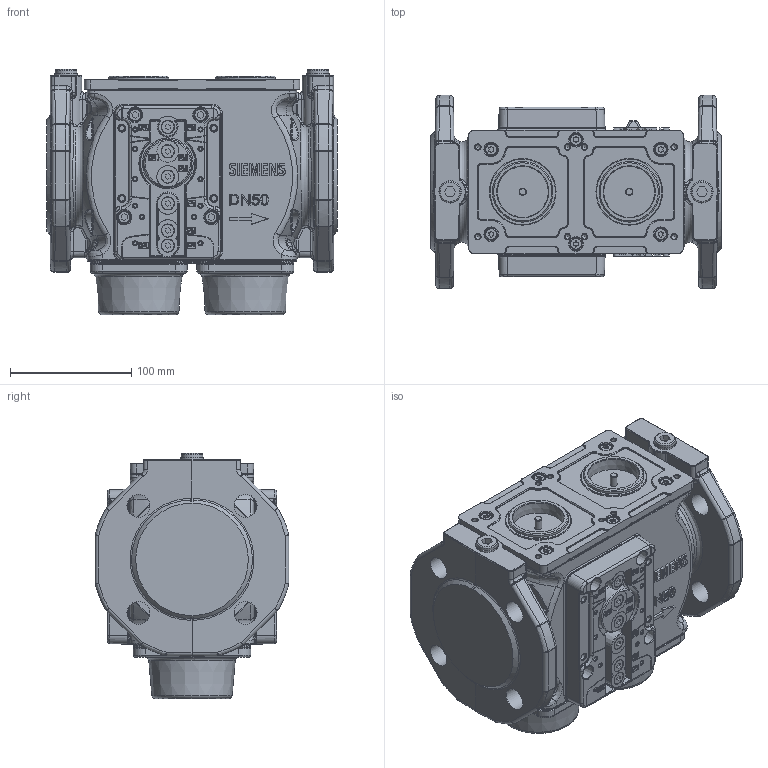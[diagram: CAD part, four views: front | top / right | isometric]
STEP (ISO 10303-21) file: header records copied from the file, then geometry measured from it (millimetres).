
FILE_DESCRIPTION(/* description */ (''),/* implementation_level */ '2;1');
FILE_NAME(/* name */ 'A5W00027771_02.stp',/* time_stamp */ '2018-07-02T07:58:23+02:00',/* author */ (''),/* organization */ (''),/* preprocessor_version */ 'ST-DEVELOPER v16',/* originating_system */ 'SIEMENS PLM Software NX 10.0',/* authorisation */ '');
FILE_SCHEMA (('AUTOMOTIVE_DESIGN { 1 0 10303 214 3 1 1 1 }'));
Products named in the file (1): Gant1984025585p1
Bounding box: 240 x 160 x 202.5 mm (x, y, z)
Volume: 4216604.3 mm3; surface area: 273562 mm2
Topology: 1 solids, 7 shells, 3517 faces, 8535 edges, 5221 vertices
Faces by surface type: plane 1407, cylinder 766, bspline 556, cone 292, torus 276, extrusion 120, sphere 100
Full cylindrical faces by diameter (mm): 4.2 x8, 5.5 x8, 6 x2, 10 x22, 10.5 x12, 11 x18, 13.5 x2, 18 x2, 18.5 x2, 19 x8, 50 x2, 54 x2
Entity records: 120016 total; most frequent: CARTESIAN_POINT 43626, ORIENTED_EDGE 15928, DIRECTION 14992, EDGE_CURVE 7964, AXIS2_PLACEMENT_3D 5618, VERTEX_POINT 5092, EDGE_LOOP 4160, VECTOR 3756
